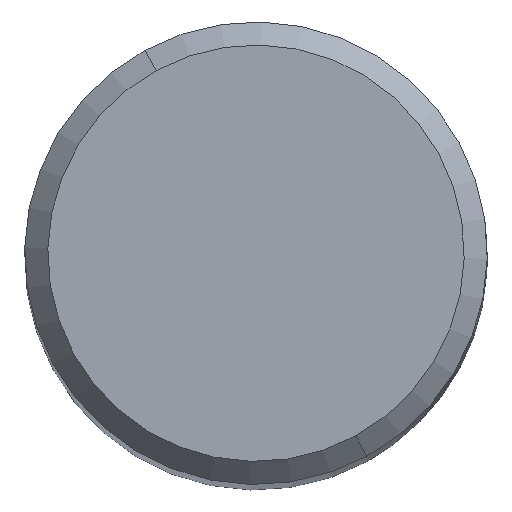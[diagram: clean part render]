
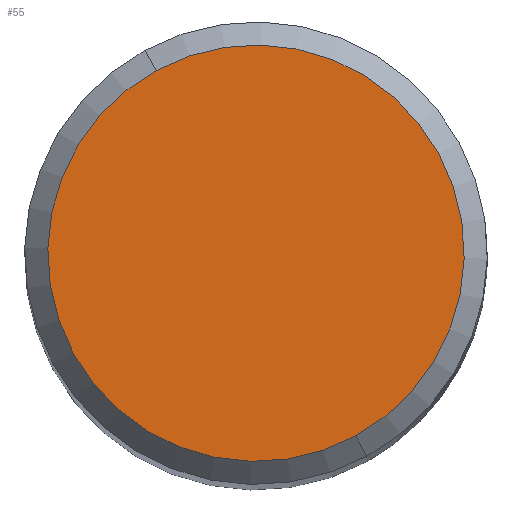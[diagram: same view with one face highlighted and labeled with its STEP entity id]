
A CAD part, top view. The second image highlights one B-rep face of the part: STEP entity #55.
In plain terms, the highlighted planar face has unit normal (0, 0, 1).
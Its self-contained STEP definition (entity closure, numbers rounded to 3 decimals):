
#35=AXIS2_PLACEMENT_3D('Plane Axis2P3D',#32,#33,#34) ;
#39=AXIS2_PLACEMENT_3D('Circle Axis2P3D',#37,#38,$) ;
#48=AXIS2_PLACEMENT_3D('Circle Axis2P3D',#46,#47,$) ;
#32=CARTESIAN_POINT('Axis2P3D Location',(0.,2.7,57.)) ;
#37=CARTESIAN_POINT('Axis2P3D Location',(0.,0.,57.)) ;
#41=CARTESIAN_POINT('Vertex',(-1.294,2.369,57.)) ;
#43=CARTESIAN_POINT('Vertex',(1.294,-2.369,57.)) ;
#46=CARTESIAN_POINT('Axis2P3D Location',(0.,0.,57.)) ;
#33=DIRECTION('Axis2P3D Direction',(0.,0.,1.)) ;
#34=DIRECTION('Axis2P3D XDirection',(-1.,0.,0.)) ;
#38=DIRECTION('Axis2P3D Direction',(0.,0.,1.)) ;
#47=DIRECTION('Axis2P3D Direction',(0.,0.,1.)) ;
#52=ORIENTED_EDGE('',*,*,#45,.T.) ;
#53=ORIENTED_EDGE('',*,*,#50,.T.) ;
#55=ADVANCED_FACE('NOCUT',(#54),#36,.T.) ;
#40=CIRCLE('generated circle',#39,2.7) ;
#49=CIRCLE('generated circle',#48,2.7) ;
#45=EDGE_CURVE('',#42,#44,#40,.T.) ;
#50=EDGE_CURVE('',#44,#42,#49,.T.) ;
#51=EDGE_LOOP('',(#52,#53)) ;
#54=FACE_OUTER_BOUND('',#51,.T.) ;
#36=PLANE('',#35) ;
#42=VERTEX_POINT('',#41) ;
#44=VERTEX_POINT('',#43) ;
